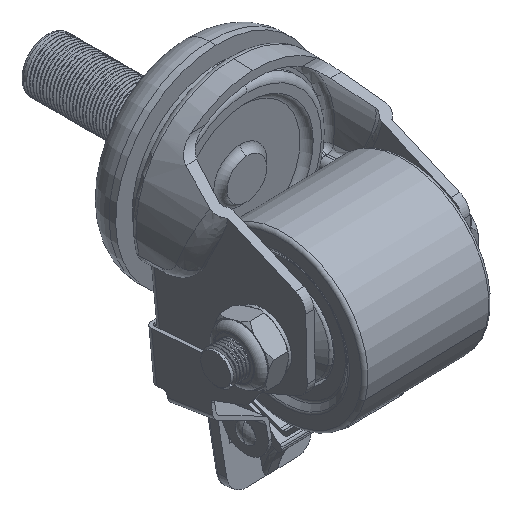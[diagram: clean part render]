
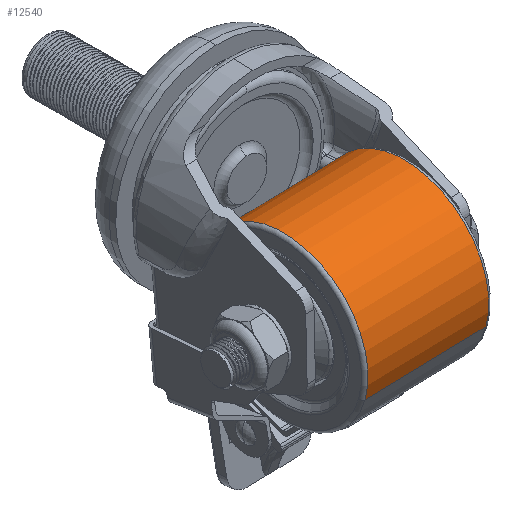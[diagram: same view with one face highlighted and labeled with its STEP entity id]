
A CAD part, isometric view. The second image highlights one B-rep face of the part: STEP entity #12540.
In plain terms, the highlighted cylindrical face has radius 25 mm (diameter 50 mm), a partial arc.
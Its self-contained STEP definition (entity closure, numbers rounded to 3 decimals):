
#444 = CIRCLE ( 'NONE', #6758, 25. ) ;
#458 = DIRECTION ( 'NONE',  ( 0., 1., 0. ) ) ;
#489 = CARTESIAN_POINT ( 'NONE',  ( 0., 0., 0. ) ) ;
#2724 = VECTOR ( 'NONE', #47040, 1000. ) ;
#3580 = CARTESIAN_POINT ( 'NONE',  ( 0., -18.25, -25. ) ) ;
#5678 = DIRECTION ( 'NONE',  ( 0., -1., 0. ) ) ;
#5879 = VERTEX_POINT ( 'NONE', #48908 ) ;
#6758 = AXIS2_PLACEMENT_3D ( 'NONE', #38991, #5678, #33034 ) ;
#8713 = CARTESIAN_POINT ( 'NONE',  ( 0., -18.25, 25. ) ) ;
#9147 = AXIS2_PLACEMENT_3D ( 'NONE', #37460, #458, #45162 ) ;
#11188 = LINE ( 'NONE', #41975, #41647 ) ;
#11343 = VERTEX_POINT ( 'NONE', #3580 ) ;
#11691 = DIRECTION ( 'NONE',  ( 0., -1., 0. ) ) ;
#12540 = ADVANCED_FACE ( 'NONE', ( #30061 ), #30794, .T. ) ;
#16493 = CARTESIAN_POINT ( 'NONE',  ( 0., 0., -25. ) ) ;
#17313 = AXIS2_PLACEMENT_3D ( 'NONE', #489, #37983, #18861 ) ;
#17554 = EDGE_LOOP ( 'NONE', ( #45177, #39683, #23808, #36810 ) ) ;
#18861 = DIRECTION ( 'NONE',  ( 0., 0., -1. ) ) ;
#20816 = EDGE_CURVE ( 'NONE', #5879, #37095, #11188, .T. ) ;
#20999 = EDGE_CURVE ( 'NONE', #30719, #5879, #444, .T. ) ;
#21294 = EDGE_CURVE ( 'NONE', #37095, #11343, #23417, .T. ) ;
#23417 = CIRCLE ( 'NONE', #9147, 25. ) ;
#23808 = ORIENTED_EDGE ( 'NONE', *, *, #21294, .T. ) ;
#30061 = FACE_OUTER_BOUND ( 'NONE', #17554, .T. ) ;
#30719 = VERTEX_POINT ( 'NONE', #30960 ) ;
#30794 = CYLINDRICAL_SURFACE ( 'NONE', #17313, 25. ) ;
#30930 = LINE ( 'NONE', #16493, #2724 ) ;
#30960 = CARTESIAN_POINT ( 'NONE',  ( 0., 18.25, -25. ) ) ;
#33034 = DIRECTION ( 'NONE',  ( 0., 0., 1. ) ) ;
#36810 = ORIENTED_EDGE ( 'NONE', *, *, #46472, .F. ) ;
#37095 = VERTEX_POINT ( 'NONE', #8713 ) ;
#37460 = CARTESIAN_POINT ( 'NONE',  ( 0., -18.25, 0. ) ) ;
#37983 = DIRECTION ( 'NONE',  ( 0., -1., 0. ) ) ;
#38991 = CARTESIAN_POINT ( 'NONE',  ( 0., 18.25, 0. ) ) ;
#39683 = ORIENTED_EDGE ( 'NONE', *, *, #20816, .T. ) ;
#41647 = VECTOR ( 'NONE', #11691, 1000. ) ;
#41975 = CARTESIAN_POINT ( 'NONE',  ( 0., 0., 25. ) ) ;
#45162 = DIRECTION ( 'NONE',  ( 0., 0., -1. ) ) ;
#45177 = ORIENTED_EDGE ( 'NONE', *, *, #20999, .T. ) ;
#46472 = EDGE_CURVE ( 'NONE', #30719, #11343, #30930, .T. ) ;
#47040 = DIRECTION ( 'NONE',  ( 0., -1., 0. ) ) ;
#48908 = CARTESIAN_POINT ( 'NONE',  ( 0., 18.25, 25. ) ) ;
